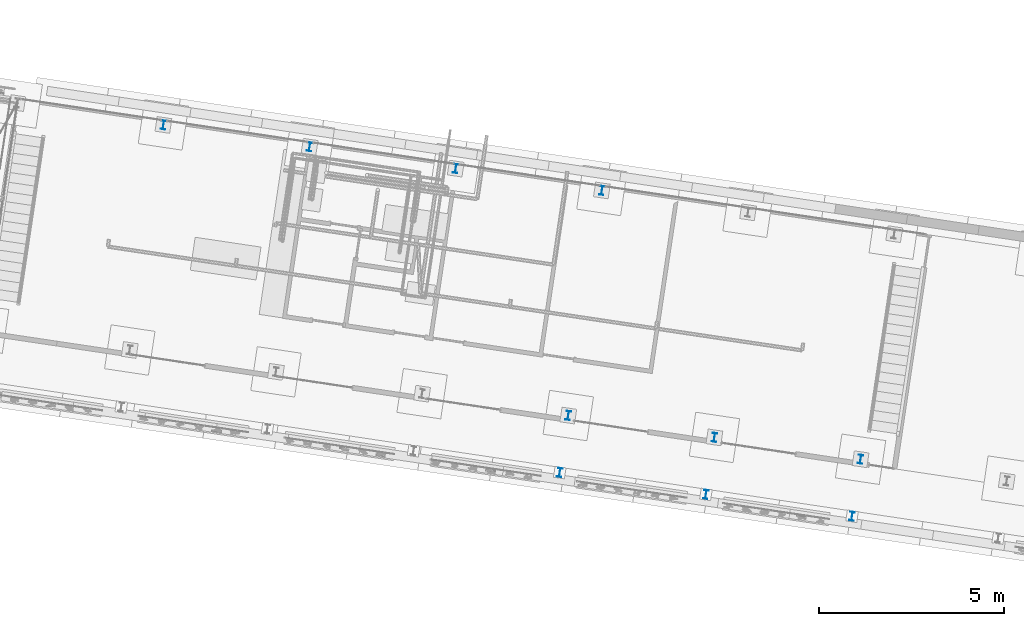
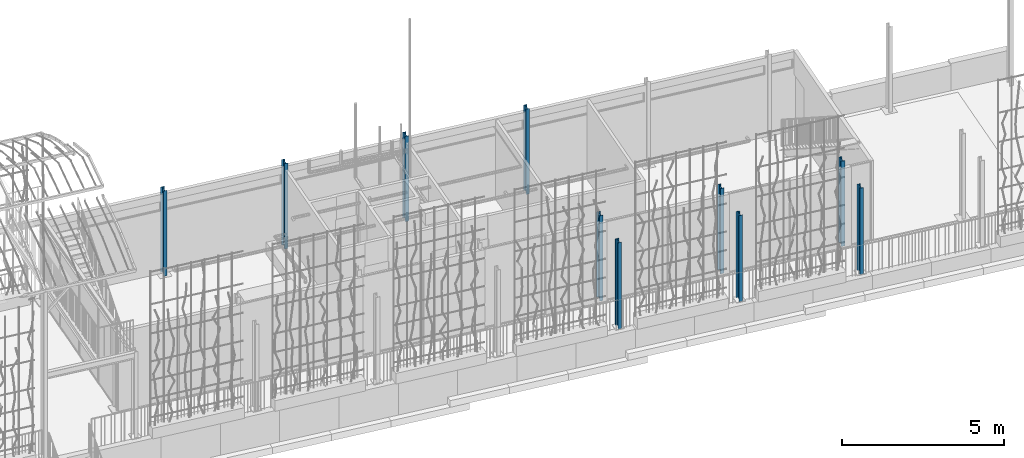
# One storey, part 3 of 142: 10 columns.
"""IFC4 building model written with IfcOpenShell, lengths in metres."""

from ifc_helpers import new_model, si_unit, direction, frame, origin_with_axes, place, context, subcontext, project, spatial, i_section, extrude, material, material_profile, profile_set, profile_usage, type_object, element, save


model = new_model("IFC4")

# Units and contexts
model_context = context("Model", 3, precision=1e-05, world=origin_with_axes(), true_north=direction((0.0, 1.0)))
body_context = subcontext(model_context, "Body", "Model", "MODEL_VIEW")
ifc_project = project(units=[si_unit("VOLUMEUNIT", "CUBIC_METRE"), si_unit("LENGTHUNIT", "METRE"), si_unit("AREAUNIT", "SQUARE_METRE")], contexts=[model_context])

# Site, building, storey
site_placement = place(None, origin_with_axes())
site = spatial("IfcSite", under=ifc_project, at=site_placement, Name="Lares · Rua das Mercês · artigo 4771")
building_placement = place(site_placement, frame((12.0, 10.2, 13.9), z_axis=(0.0, 0.0, 1.0), x_axis=(0.989015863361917, -0.147809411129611, 0.0)))
building = spatial("IfcBuilding", under=site, at=building_placement, Name="Casa Sobreposta")
storey_placement = place(building_placement, origin_with_axes())
storey = spatial("IfcBuildingStorey", under=building, at=storey_placement, Name="00 · Habitação e estacionamento", Elevation=13.9)

# Columns
ifc_material = material(Name="Aço pintado / Stahl lackiert", Category="steel")
ifc_material_profile = material_profile(ifc_material, i_section(OverallWidth=0.12, OverallDepth=0.24, WebThickness=0.0062, FlangeThickness=0.0098))
ifc_profile_set = profile_set([ifc_material_profile], Name="IPE240")
ifc_profile_usage_1 = profile_usage(ifc_profile_set)
column_type = type_object("IfcColumnType", Name="IPE240 / steel", PredefinedType="NOTDEFINED", material=ifc_profile_set)
column_1_placement = place(storey_placement, frame((4.0, 6.28, 0.0), z_axis=(0.0, 0.0, 1.0), x_axis=(1.0, 0.0, 0.0)))
element("IfcColumn", 1, at=column_1_placement, inside=storey, type_object=column_type, material=ifc_profile_usage_1, Name="Pilar 2B · IPE240", context=body_context, shape_type="SweptSolid", body=[
    extrude(i_section(OverallWidth=0.12, OverallDepth=0.24, WebThickness=0.0062, FlangeThickness=0.0098), origin_with_axes(), (0.0, 0.0, 1.0), 3.208),
])
ifc_profile_usage_2 = profile_usage(ifc_profile_set)
column_2_placement = place(storey_placement, frame((8.0, 6.28, 0.0), z_axis=(0.0, 0.0, 1.0), x_axis=(1.0, 0.0, 0.0)))
element("IfcColumn", 2, at=column_2_placement, inside=storey, type_object=column_type, material=ifc_profile_usage_2, Name="Pilar 3B · IPE240", context=body_context, shape_type="SweptSolid", body=[
    extrude(i_section(OverallWidth=0.12, OverallDepth=0.24, WebThickness=0.0062, FlangeThickness=0.0098), origin_with_axes(), (0.0, 0.0, 1.0), 3.208),
])
ifc_profile_usage_3 = profile_usage(ifc_profile_set)
column_3_placement = place(storey_placement, frame((12.0, 6.28, 0.0), z_axis=(0.0, 0.0, 1.0), x_axis=(1.0, 0.0, 0.0)))
element("IfcColumn", 3, at=column_3_placement, inside=storey, type_object=column_type, material=ifc_profile_usage_3, Name="Pilar 4B · IPE240", context=body_context, shape_type="SweptSolid", body=[
    extrude(i_section(OverallWidth=0.12, OverallDepth=0.24, WebThickness=0.0062, FlangeThickness=0.0098), origin_with_axes(), (0.0, 0.0, 1.0), 3.208),
])
ifc_profile_usage_4 = profile_usage(ifc_profile_set)
column_4_placement = place(storey_placement, frame((16.0, 0.12, 0.0), z_axis=(0.0, 0.0, 1.0), x_axis=(1.0, 0.0, 0.0)))
element("IfcColumn", 4, at=column_4_placement, inside=storey, type_object=column_type, material=ifc_profile_usage_4, Name="Pilar 5A · IPE240", context=body_context, shape_type="SweptSolid", body=[
    extrude(i_section(OverallWidth=0.12, OverallDepth=0.24, WebThickness=0.0062, FlangeThickness=0.0098), origin_with_axes(), (0.0, 0.0, 1.0), 3.208),
])
ifc_profile_usage_5 = profile_usage(ifc_profile_set)
column_5_placement = place(storey_placement, frame((16.0, 6.28, 0.0), z_axis=(0.0, 0.0, 1.0), x_axis=(1.0, 0.0, 0.0)))
element("IfcColumn", 5, at=column_5_placement, inside=storey, type_object=column_type, material=ifc_profile_usage_5, Name="Pilar 5B · IPE240", context=body_context, shape_type="SweptSolid", body=[
    extrude(i_section(OverallWidth=0.12, OverallDepth=0.24, WebThickness=0.0062, FlangeThickness=0.0098), origin_with_axes(), (0.0, 0.0, 1.0), 3.208),
])
ifc_profile_usage_6 = profile_usage(ifc_profile_set)
column_6_placement = place(storey_placement, frame((20.0, 0.12, 0.0), z_axis=(0.0, 0.0, 1.0), x_axis=(1.0, 0.0, 0.0)))
element("IfcColumn", 6, at=column_6_placement, inside=storey, type_object=column_type, material=ifc_profile_usage_6, Name="Pilar 6A · IPE240", context=body_context, shape_type="SweptSolid", body=[
    extrude(i_section(OverallWidth=0.12, OverallDepth=0.24, WebThickness=0.0062, FlangeThickness=0.0098), origin_with_axes(), (0.0, 0.0, 1.0), 3.208),
])
ifc_profile_usage_7 = profile_usage(ifc_profile_set)
column_7_placement = place(storey_placement, frame((24.0, 0.12, 0.0), z_axis=(0.0, 0.0, 1.0), x_axis=(1.0, 0.0, 0.0)))
element("IfcColumn", 7, at=column_7_placement, inside=storey, type_object=column_type, material=ifc_profile_usage_7, Name="Pilar 7A · IPE240", context=body_context, shape_type="SweptSolid", body=[
    extrude(i_section(OverallWidth=0.12, OverallDepth=0.24, WebThickness=0.0062, FlangeThickness=0.0098), origin_with_axes(), (0.0, 0.0, 1.0), 3.208),
])
ifc_profile_usage_8 = profile_usage(ifc_profile_set)
column_8_placement = place(storey_placement, frame((16.0, -1.44, -0.04), z_axis=(0.0, 0.0, 1.0), x_axis=(1.0, 0.0, 0.0)))
element("IfcColumn", 8, at=column_8_placement, inside=storey, type_object=column_type, material=ifc_profile_usage_8, Name="Projeção estufa · pilar sul ao pódio", context=body_context, shape_type="SweptSolid", body=[
    extrude(i_section(OverallWidth=0.12, OverallDepth=0.24, WebThickness=0.0062, FlangeThickness=0.0098), origin_with_axes(), (0.0, 0.0, 1.0), 3.248),
])
ifc_profile_usage_9 = profile_usage(ifc_profile_set)
column_9_placement = place(storey_placement, frame((20.0, -1.44, -0.04), z_axis=(0.0, 0.0, 1.0), x_axis=(1.0, 0.0, 0.0)))
element("IfcColumn", 9, at=column_9_placement, inside=storey, type_object=column_type, material=ifc_profile_usage_9, Name="Projeção estufa · pilar sul ao pódio", context=body_context, shape_type="SweptSolid", body=[
    extrude(i_section(OverallWidth=0.12, OverallDepth=0.24, WebThickness=0.0062, FlangeThickness=0.0098), origin_with_axes(), (0.0, 0.0, 1.0), 3.248),
])
ifc_profile_usage_10 = profile_usage(ifc_profile_set)
column_10_placement = place(storey_placement, frame((24.0, -1.44, -0.04), z_axis=(0.0, 0.0, 1.0), x_axis=(1.0, 0.0, 0.0)))
element("IfcColumn", 10, at=column_10_placement, inside=storey, type_object=column_type, material=ifc_profile_usage_10, Name="Projeção estufa · pilar sul ao pódio", context=body_context, shape_type="SweptSolid", body=[
    extrude(i_section(OverallWidth=0.12, OverallDepth=0.24, WebThickness=0.0062, FlangeThickness=0.0098), origin_with_axes(), (0.0, 0.0, 1.0), 3.248),
])

save(model, "model.ifc")
